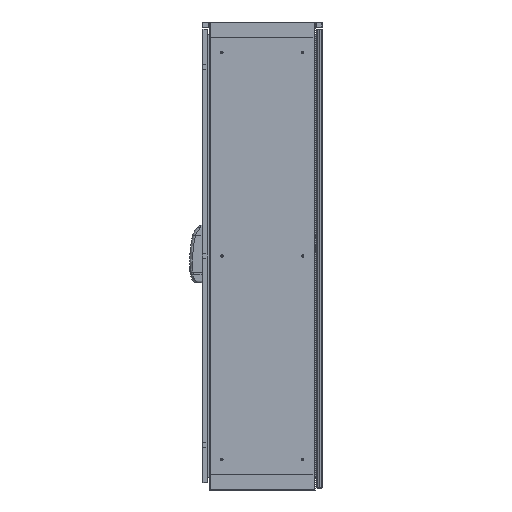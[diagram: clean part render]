
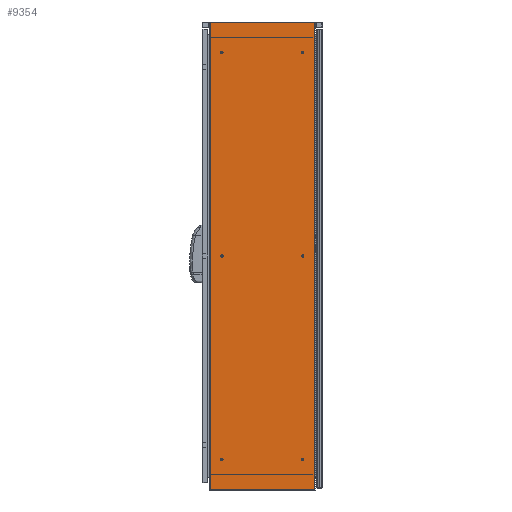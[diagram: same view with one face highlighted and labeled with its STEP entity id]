
A CAD part, left-side view. The second image highlights one B-rep face of the part: STEP entity #9354.
In plain terms, the highlighted planar face has unit normal (-1, 0, 0).
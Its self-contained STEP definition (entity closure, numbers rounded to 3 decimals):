
#1124 = CARTESIAN_POINT ( 'NONE',  ( -400., -179.43, 0. ) ) ;
#1648 = VERTEX_POINT ( 'NONE', #1124 ) ;
#2644 = LINE ( 'NONE', #59819, #6540 ) ;
#2859 = DIRECTION ( 'NONE',  ( 0., -1., 0. ) ) ;
#5294 = CARTESIAN_POINT ( 'NONE',  ( -400., 179.43, 1609. ) ) ;
#6540 = VECTOR ( 'NONE', #48521, 1000. ) ;
#8447 = CARTESIAN_POINT ( 'NONE',  ( -400., 183.5, 1609. ) ) ;
#8823 = DIRECTION ( 'NONE',  ( 0., 0., -1. ) ) ;
#9354 = ADVANCED_FACE ( 'NONE', ( #37410 ), #72345, .F. ) ;
#11275 = CARTESIAN_POINT ( 'NONE',  ( -400., -179.43, 1609. ) ) ;
#12722 = VERTEX_POINT ( 'NONE', #11275 ) ;
#22765 = VECTOR ( 'NONE', #2859, 1000. ) ;
#26112 = ORIENTED_EDGE ( 'NONE', *, *, #56278, .T. ) ;
#27830 = VECTOR ( 'NONE', #51374, 1000. ) ;
#28459 = DIRECTION ( 'NONE',  ( 0., 0., -1. ) ) ;
#31451 = CARTESIAN_POINT ( 'NONE',  ( -400., 183.5, 1609. ) ) ;
#32060 = VERTEX_POINT ( 'NONE', #44951 ) ;
#36474 = VECTOR ( 'NONE', #28459, 1000. ) ;
#37410 = FACE_OUTER_BOUND ( 'NONE', #47677, .T. ) ;
#40233 = ORIENTED_EDGE ( 'NONE', *, *, #40248, .T. ) ;
#40248 = EDGE_CURVE ( 'NONE', #1648, #12722, #57388, .T. ) ;
#40463 = LINE ( 'NONE', #57003, #36474 ) ;
#44951 = CARTESIAN_POINT ( 'NONE',  ( -400., 179.43, 0. ) ) ;
#45126 = AXIS2_PLACEMENT_3D ( 'NONE', #8447, #71613, #8823 ) ;
#47677 = EDGE_LOOP ( 'NONE', ( #26112, #40233, #73536, #54042 ) ) ;
#47810 = VERTEX_POINT ( 'NONE', #5294 ) ;
#48521 = DIRECTION ( 'NONE',  ( 0., -1., 0. ) ) ;
#51374 = DIRECTION ( 'NONE',  ( 0., 0., 1. ) ) ;
#54042 = ORIENTED_EDGE ( 'NONE', *, *, #54104, .T. ) ;
#54104 = EDGE_CURVE ( 'NONE', #47810, #32060, #40463, .T. ) ;
#56278 = EDGE_CURVE ( 'NONE', #32060, #1648, #2644, .T. ) ;
#57003 = CARTESIAN_POINT ( 'NONE',  ( -400., 179.43, 1609. ) ) ;
#57388 = LINE ( 'NONE', #68665, #27830 ) ;
#59819 = CARTESIAN_POINT ( 'NONE',  ( -400., 183.5, 0. ) ) ;
#65663 = LINE ( 'NONE', #31451, #22765 ) ;
#67230 = EDGE_CURVE ( 'NONE', #47810, #12722, #65663, .T. ) ;
#68665 = CARTESIAN_POINT ( 'NONE',  ( -400., -179.43, 1609. ) ) ;
#71613 = DIRECTION ( 'NONE',  ( 1., 0., 0. ) ) ;
#72345 = PLANE ( 'NONE',  #45126 ) ;
#73536 = ORIENTED_EDGE ( 'NONE', *, *, #67230, .F. ) ;
